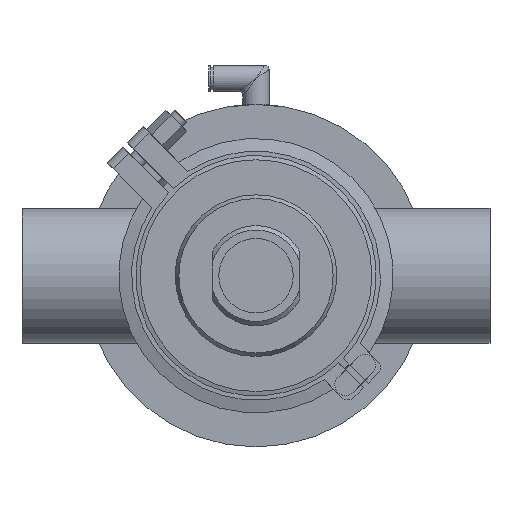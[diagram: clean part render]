
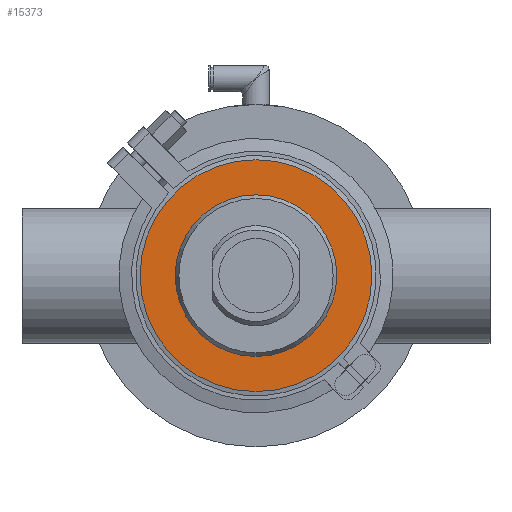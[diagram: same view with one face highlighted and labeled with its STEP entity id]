
A CAD part, front view. The second image highlights one B-rep face of the part: STEP entity #15373.
In plain terms, the highlighted planar face has unit normal (0, -1, 0).
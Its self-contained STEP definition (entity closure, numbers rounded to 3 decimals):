
#647 = EDGE_LOOP ( 'NONE', ( #17242 ) ) ;
#2083 = DIRECTION ( 'NONE',  ( 0., -1., 0. ) ) ;
#2200 = CARTESIAN_POINT ( 'NONE',  ( -54.5, -13., 0. ) ) ;
#2270 = CARTESIAN_POINT ( 'NONE',  ( 0., -13., 54.5 ) ) ;
#2626 = AXIS2_PLACEMENT_3D ( 'NONE', #2200, #2083, #12908 ) ;
#3088 = DIRECTION ( 'NONE',  ( 0., 0., 1. ) ) ;
#4335 = EDGE_CURVE ( 'NONE', #11342, #11342, #10241, .T. ) ;
#4585 = VERTEX_POINT ( 'NONE', #8418 ) ;
#5580 = FACE_BOUND ( 'NONE', #647, .T. ) ;
#7557 = PLANE ( 'NONE',  #2626 ) ;
#8076 = ORIENTED_EDGE ( 'NONE', *, *, #4335, .F. ) ;
#8233 = EDGE_LOOP ( 'NONE', ( #8076 ) ) ;
#8418 = CARTESIAN_POINT ( 'NONE',  ( 0., -13., 38. ) ) ;
#8473 = CIRCLE ( 'NONE', #21722, 38. ) ;
#10241 = CIRCLE ( 'NONE', #19121, 54.5 ) ;
#10660 = DIRECTION ( 'NONE',  ( 0., 1., 0. ) ) ;
#10763 = EDGE_CURVE ( 'NONE', #4585, #4585, #8473, .T. ) ;
#10944 = FACE_OUTER_BOUND ( 'NONE', #8233, .T. ) ;
#11342 = VERTEX_POINT ( 'NONE', #2270 ) ;
#12908 = DIRECTION ( 'NONE',  ( 0., 0., -1. ) ) ;
#15373 = ADVANCED_FACE ( 'NONE', ( #5580, #10944 ), #7557, .T. ) ;
#17242 = ORIENTED_EDGE ( 'NONE', *, *, #10763, .T. ) ;
#17533 = CARTESIAN_POINT ( 'NONE',  ( 0., -13., 0. ) ) ;
#18128 = CARTESIAN_POINT ( 'NONE',  ( 0., -13., 0. ) ) ;
#18951 = DIRECTION ( 'NONE',  ( 0., 1., 0. ) ) ;
#19121 = AXIS2_PLACEMENT_3D ( 'NONE', #18128, #10660, #19750 ) ;
#19750 = DIRECTION ( 'NONE',  ( 0., 0., 1. ) ) ;
#21722 = AXIS2_PLACEMENT_3D ( 'NONE', #17533, #18951, #3088 ) ;
